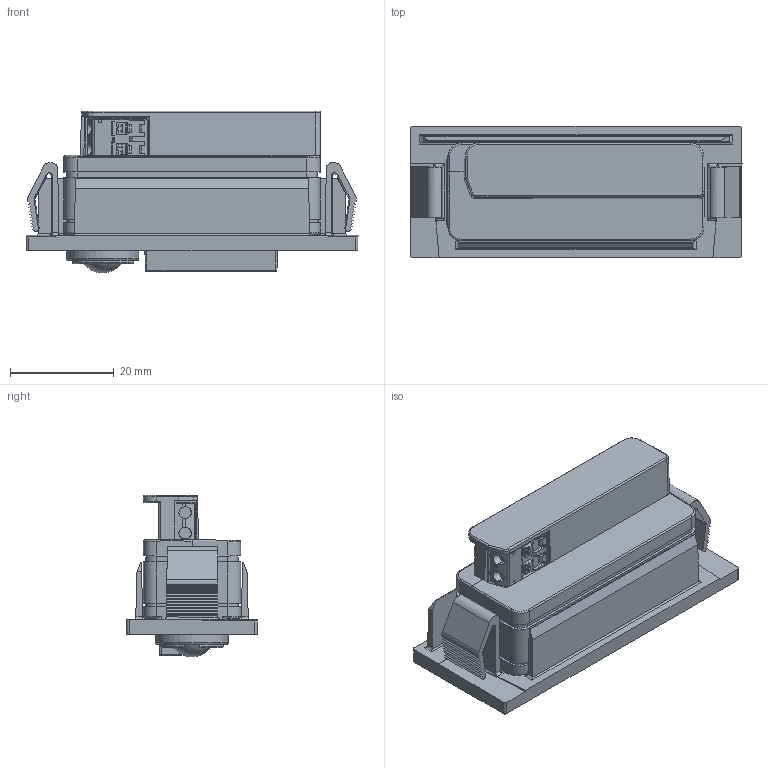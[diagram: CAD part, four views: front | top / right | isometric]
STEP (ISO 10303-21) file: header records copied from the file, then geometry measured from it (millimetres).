
FILE_DESCRIPTION(/* description */ (''),/* implementation_level */ '2;1');
FILE_NAME(/* name */ 'C:\Data\Vault\LE-TPD\9290 028 13706_SMB holder White Commercial\9290-028-13706 sh-010 2019-12-20.stp',/* time_stamp */ '2020-07-16T10:38:27+02:00',/* author */ ('nly19266'),/* organization */ (''),/* preprocessor_version */ 'ST-DEVELOPER v16.5',/* originating_system */ 'Autodesk Inventor 2017',/* authorisation */ '');
FILE_SCHEMA (('CONFIG_CONTROL_DESIGN'));
Length unit declared in the file: millimetre
Products named in the file (3): 9290-015-40200 commercial; 4422-409-450202; 9290-007-38300 commercial 2015-05-26
Assembly tree (2 placements, depth 2):
  9290-015-40200 commercial
    4422-409-450202
    9290-007-38300 commercial 2015-05-26
Bounding box: 64.11 x 25.3 x 31.2 mm (x, y, z)
Volume: 24428.1 mm3; surface area: 12606.5 mm2
Topology: 2 solids, 7 shells, 722 faces, 1882 edges, 1196 vertices
Faces by surface type: plane 406, cylinder 234, cone 27, bspline 25, torus 25, sphere 5
Full cylindrical faces by diameter (mm): 1.3 x12
Entity records: 24349 total; most frequent: CARTESIAN_POINT 5821, DIRECTION 3755, ORIENTED_EDGE 3706, EDGE_CURVE 1853, LINE 1275, VECTOR 1275, AXIS2_PLACEMENT_3D 1240, VERTEX_POINT 1196
